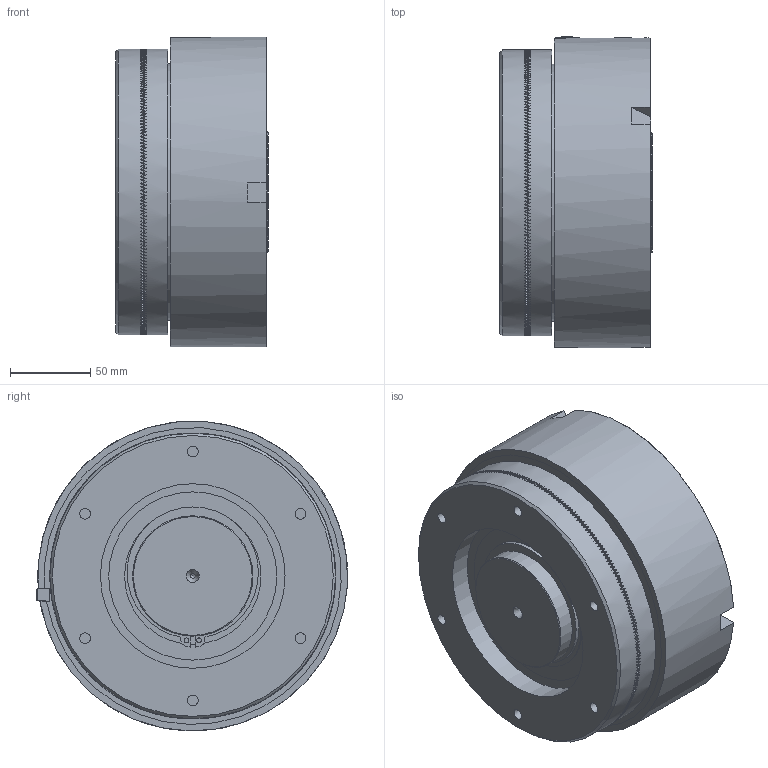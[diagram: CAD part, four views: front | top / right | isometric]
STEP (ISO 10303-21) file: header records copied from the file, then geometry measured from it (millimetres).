
FILE_DESCRIPTION(/* description */ (''),/* implementation_level */ '2;1');
FILE_NAME(/* name */ '\\Srv-tecnico\DATI\UFFICIO TECNICO\ARCHIVIO INVENTOR\DISEGNI\UFFICIO TECNICO\03_Friz_Oleodinamiche e Pneumatiche_Cilindro_Statico\03_25 DP\03_25_06_01 DP-06\03_25_06_01 DP06@STEP.stp',/* time_stamp */ '2015-01-22T16:51:05+01:00',/* author */ ('stefano'),/* organization */ (''),/* preprocessor_version */ 'ST-DEVELOPER v15.6',/* originating_system */ 'Autodesk Inventor 2015',/* authorisation */ '');
FILE_SCHEMA (('AUTOMOTIVE_DESIGN { 1 0 10303 214 3 1 1 }'));
Products named in the file (1): 03_25_06_01 DP06_Substitute_2
Bounding box: 95 x 193.96 x 192.91 mm (x, y, z)
Surface area: 218530.5 mm2 (no closed solid volume)
Topology: 0 solids, 20 shells, 845 faces, 6376 edges, 4830 vertices
Faces by surface type: plane 761, cylinder 37, torus 24, sphere 12, cone 9, bspline 2
Full cylindrical faces by diameter (mm): 3 x4, 6.647 x6, 11.445 x1, 72 x1, 75 x2, 87.8 x1, 102.2 x2, 104.8 x1, 105 x1, 115 x3, 117.3 x1, 160 x1, 165 x2, 178 x2, 193 x1
Entity records: 61945 total; most frequent: CARTESIAN_POINT 13487, DIRECTION 12511, ORIENTED_EDGE 7962, EDGE_CURVE 6274, AXIS2_PLACEMENT_3D 5504, VERTEX_POINT 4782, ELLIPSE 3123, CIRCLE 1537
